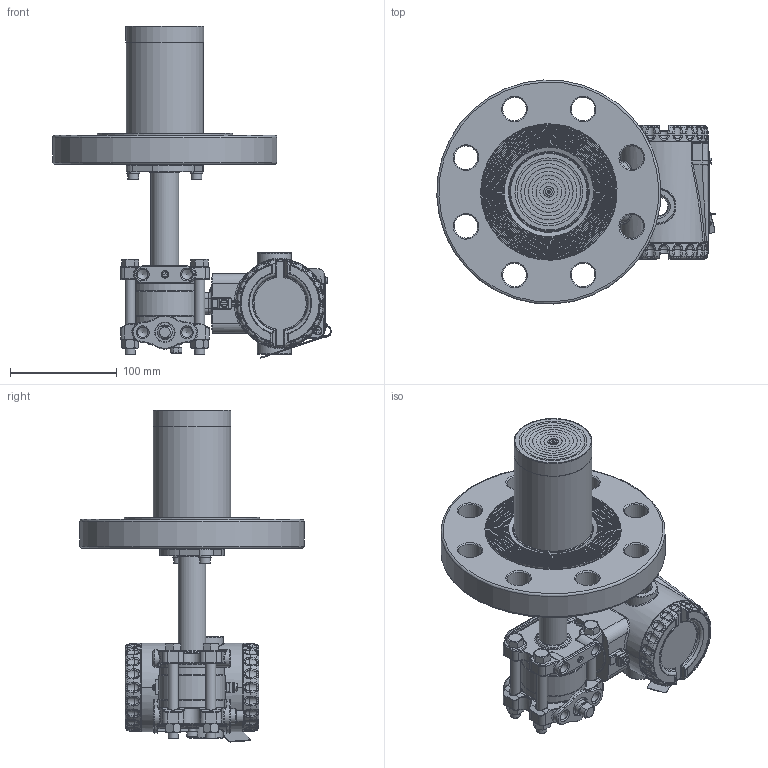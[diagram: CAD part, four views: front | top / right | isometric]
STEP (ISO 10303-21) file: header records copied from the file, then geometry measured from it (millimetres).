
FILE_DESCRIPTION(/* description */ (''),/* implementation_level */ '2;1');
FILE_NAME(/* name */ 'F:\Area\Desenvolvimento_2\Projects\Sensor\projetos\LD400-3d\dimensionais 3D clientes\LD400L\LD400L 3-300 RF ext 100 ref 1-4NPT purga acima.stp',/* time_stamp */ '2023-02-23T16:14:21-03:00',/* author */ ('inventor02'),/* organization */ (''),/* preprocessor_version */ 'ST-DEVELOPER v17',/* originating_system */ 'Autodesk Inventor 2019',/* authorisation */ '');
FILE_SCHEMA (('CONFIG_CONTROL_DESIGN'));
Products named in the file (41): LD30XL 3-300 RF ext 100 ref 1-4NPT purga acima; 204-0301-L-3 300 RF ext 100 purga acima; nivel fx3 com baixa diferencial 1-4NPT purga acima; involucro fx0-3 apos a usinagem final; flange diferencial std purga; 101-C-7484-01 flange selo nivel VR; 201-A-0504-tubo união teste 1; bujao 1-4NPT; Sangria; Porca 3-8 x 16 UNC; Paraf. 3-8 x 16 UNC; adaptação tubo x flanges 1-1-2 a 4pol; 101-B-0161-anel cortado do tubo - teste1; 101-B-0162-flange fixação tubo; ANSI B18.3.1M - M6x1 x 16; DIN 127 - A 6; flange 3 300 ext 100; 101-C-0120-13; 096-B-0199-14; 101-B-7701-02 ext 3-100; Carcaça 400 com tampas e plaqueta sem letras; 101-D-0845-05 carcaça LD400 sem letras; 101-B-3614-03-tampa 400 sem letras; Tampa visor 400 montada sem letras; 101-B-3612-05 tampa visor 400 sem letras; 101-A-6107; oring 2034; 00034775-0; WHW_250; DIN 915 - M6 x 10; Chapa aterramento externo; 201-A-1771-02 inserto terra recartilhado; AS 1969 - ST4,2; ISO 1207 - M4 x 8; ANSI B18.3.1M - M4x0,7 x 8; Subconjunto plaqueta 400; plaqueta 400 em branco; Parafuso da Plaqueta; Rebite da Plaqueta; 096-A-0169-03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
Assembly tree (50 placements, depth 4):
  LD30XL 3-300 RF ext 100 ref 1-4NPT purga acima
    204-0301-L-3 300 RF ext 100 purga acima
      nivel fx3 com baixa diferencial 1-4NPT purga acima
        involucro fx0-3 apos a usinagem final
        flange diferencial std purga
        101-C-7484-01 flange selo nivel VR
        201-A-0504-tubo união teste 1
        DIN 915 - M6 x 10
        bujao 1-4NPT
        Sangria
        Porca 3-8 x 16 UNC  x4
        Paraf. 3-8 x 16 UNC  x4
      adaptação tubo x flanges 1-1-2 a 4pol
        101-B-0161-anel cortado do tubo - teste1
        101-B-0162-flange fixação tubo
        ANSI B18.3.1M - M6x1 x 16  x2
        DIN 127 - A 6  x2
      flange 3 300 ext 100
        101-C-0120-13
        096-B-0199-14
        101-B-7701-02 ext 3-100
    Carcaça 400 com tampas e plaqueta sem letras
      101-D-0845-05 carcaça LD400 sem letras
      101-B-3614-03-tampa 400 sem letras
      Tampa visor 400 montada sem letras
        101-B-3612-05 tampa visor 400 sem letras
        101-A-6107
        oring 2034
        00034775-0
        WHW_250
      DIN 915 - M6 x 10
      Chapa aterramento externo
      201-A-1771-02 inserto terra recartilhado
      AS 1969 - ST4,2
      ISO 1207 - M4 x 8
      ANSI B18.3.1M - M4x0,7 x 8  x2
      Subconjunto plaqueta 400
        plaqueta 400 em branco
        Parafuso da Plaqueta
        Rebite da Plaqueta
        096-A-0169-03
        101-A-0502-01
Bounding box: 260.65 x 209.8 x 310.92 mm (x, y, z)
Volume: 1612207.3 mm3; surface area: 407890.3 mm2
Topology: 43 solids, 43 shells, 2809 faces, 6797 edges, 4087 vertices
Faces by surface type: plane 739, cylinder 668, bspline 605, torus 491, cone 230, sphere 76
Full cylindrical faces by diameter (mm): 2 x4, 2.1 x1, 2.2 x1, 2.459 x3, 2.5 x1, 2.7 x1, 2.8 x1, 3 x4, 3.242 x3, 3.5 x1, 3.571 x1, 4 x5, 4.3 x2, 4.4 x1, 4.917 x4, 5 x1, 5.5 x3, 6 x6, 6.1 x2, 6.2 x1, 6.647 x1, 7 x5, 7.6 x2, 7.798 x4, 8 x1, 9.525 x4, 9.728 x6, 10 x2, 10.5 x8, 10.719 x2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
Entity records: 99875 total; most frequent: CARTESIAN_POINT 37281, DIRECTION 12942, ORIENTED_EDGE 12834, EDGE_CURVE 6417, AXIS2_PLACEMENT_3D 5554, VERTEX_POINT 3893, CIRCLE 3233, EDGE_LOOP 2870
